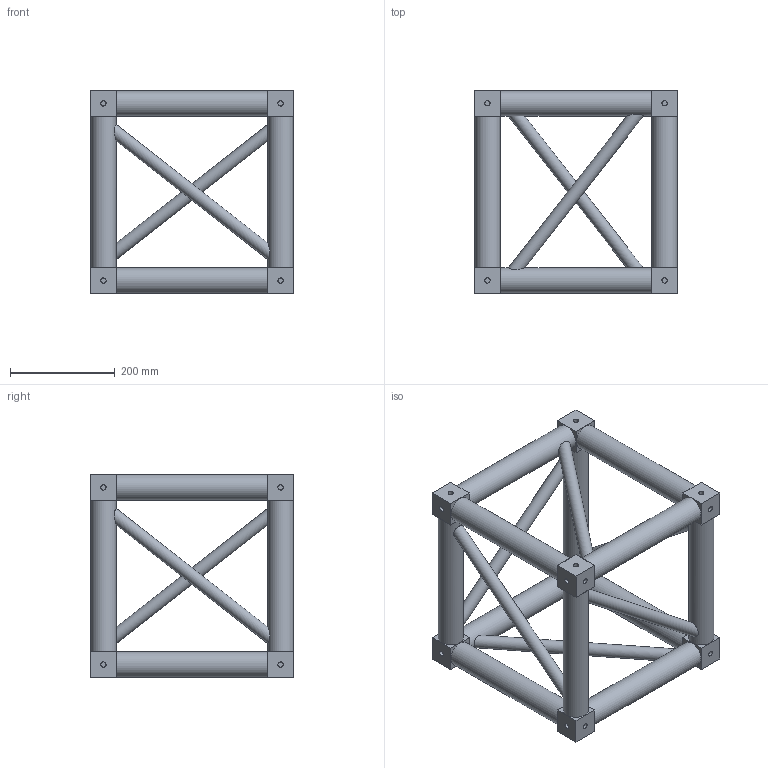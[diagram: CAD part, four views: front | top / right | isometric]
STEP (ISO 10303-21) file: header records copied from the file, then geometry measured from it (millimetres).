
FILE_DESCRIPTION(/* description */ (''),/* implementation_level */ '2;1');
FILE_NAME(/* name */ 'M:\Symbolen_NIEUW\STP\Boxcorner\111130027.stp',/* time_stamp */ '2015-05-19T10:52:51+02:00',/* author */ ('Stephan'),/* organization */ (''),/* preprocessor_version */ 'ST-DEVELOPER v15.6',/* originating_system */ 'Autodesk Inventor 2015',/* authorisation */ '');
FILE_SCHEMA (('AUTOMOTIVE_DESIGN { 1 0 10303 214 3 1 1 }'));
Length unit declared in the file: millimetre
Products named in the file (1): 160024213
Bounding box: 389 x 389 x 389 mm (x, y, z)
Volume: 8362439.7 mm3; surface area: 801551.4 mm2
Topology: 1 solids, 1 shells, 144 faces, 400 edges, 264 vertices
Faces by surface type: plane 78, cylinder 66
Full cylindrical faces by diameter (mm): 10.106 x48, 25 x6, 48.3 x12
Entity records: 4800 total; most frequent: CARTESIAN_POINT 1200, DIRECTION 746, ORIENTED_EDGE 576, AXIS2_PLACEMENT_3D 325, EDGE_CURVE 288, EDGE_LOOP 270, VERTEX_POINT 218, STYLED_ITEM 145
